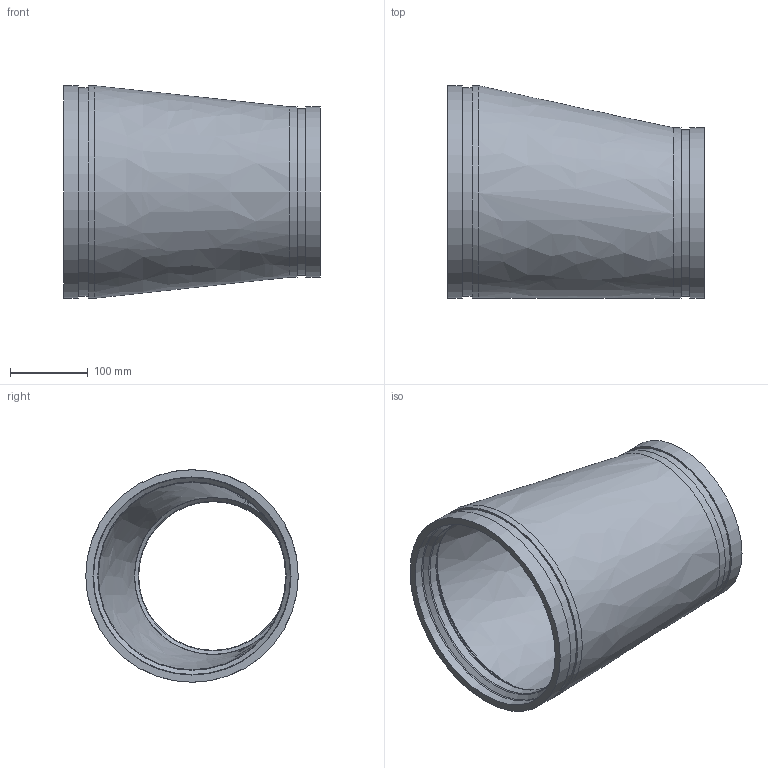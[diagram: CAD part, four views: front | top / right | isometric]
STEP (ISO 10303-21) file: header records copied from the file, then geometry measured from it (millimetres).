
FILE_DESCRIPTION(/* description */ ('VIC REDUCER ECCENTRIC No 451H-SS','CAx-IF Rec.Pracs.---Representation and Presentation of Product Manufacturing Information (PMI)---4.0---2014-10-13'),/* implementation_level */ '2;1');
FILE_NAME(/* name */ 'C:\Users\kkamble\AppData\Roaming\Autodesk\ApplicationPlugins\Back Up\Victaulic_SS-OGS_Reducer Eccentric_Sched 40S_No 451H SS (OGS)\Victaulic_SS-OGS_Reducer Eccentric_Sched 40S_No 451H SS (OGS)_10.0x08.0 (250x200).stp',/* time_stamp */ '2020-08-25T18:06:13+06:00',/* author */ ('CORINNE GRAY'),/* organization */ ('Victaulic'),/* preprocessor_version */ 'ST-DEVELOPER v17.2',/* originating_system */ 'Autodesk Inventor 2019',/* authorisation */ '');
FILE_SCHEMA (('AP242_MANAGED_MODEL_BASED_3D_ENGINEERING_MIM_LF { 1 0 10303 442 1 1 4 }'));
Length unit declared in the file: inch
Products named in the file (1): 451H SS-10.0x08.0
Bounding box: 330.2 x 273.05 x 273.05 mm (x, y, z)
Volume: 2279319.3 mm3; surface area: 521020.6 mm2
Topology: 1 solids, 1 shells, 32 faces, 111 edges, 85 vertices
Faces by surface type: cylinder 12, torus 8, plane 6, cone 4, bspline 2
Full cylindrical faces by diameter (mm): 190.983 x1, 202.692 x2, 214.401 x1, 219.075 x2, 240.741 x1, 254.508 x2, 268.275 x1, 273.05 x2
Entity records: 1504 total; most frequent: DIRECTION 290, CARTESIAN_POINT 282, ORIENTED_EDGE 222, AXIS2_PLACEMENT_3D 137, EDGE_CURVE 111, CIRCLE 93, VERTEX_POINT 85, EDGE_LOOP 38
